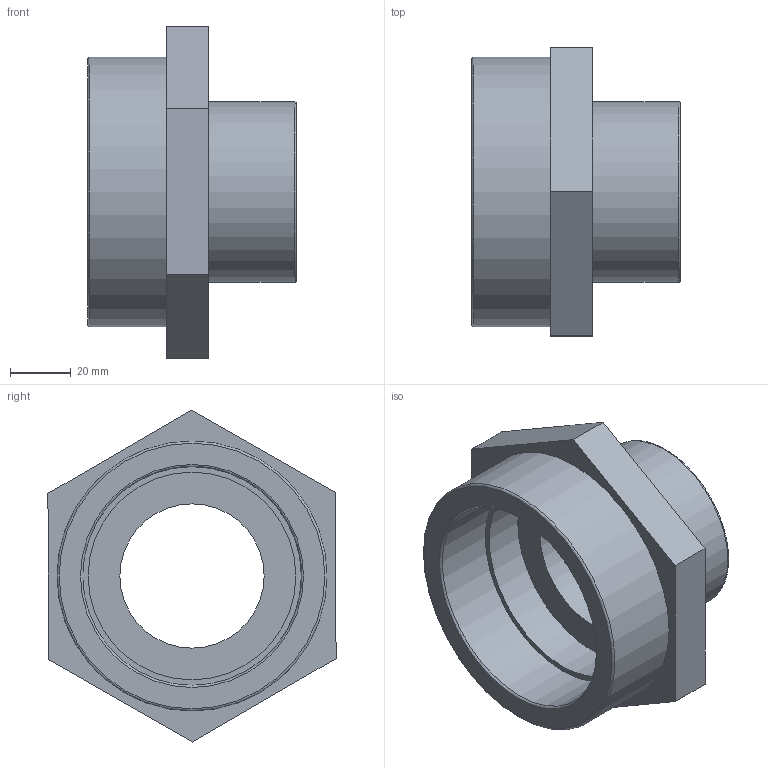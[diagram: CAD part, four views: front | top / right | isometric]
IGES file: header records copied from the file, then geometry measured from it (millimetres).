
Global section: file name: 052201020025.ipt; native system: Autodesk Inventor 2015; preprocessor: unknown; author: KIM; date: 20171207.165424; units: millimetre
Bounding box: 69 x 95.2 x 109.7 mm (x, y, z)
Volume: 155812.8 mm3; surface area: 41943.8 mm2
Topology: 1 solids, 1 shells, 21 faces, 55 edges, 40 vertices
Faces by surface type: plane 12, revolution 7, cylinder 2
Full cylindrical faces by diameter (mm): 59.614 x1, 89.199 x1
